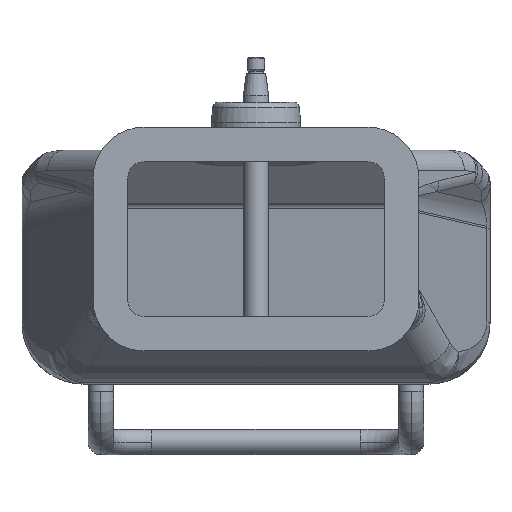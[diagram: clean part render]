
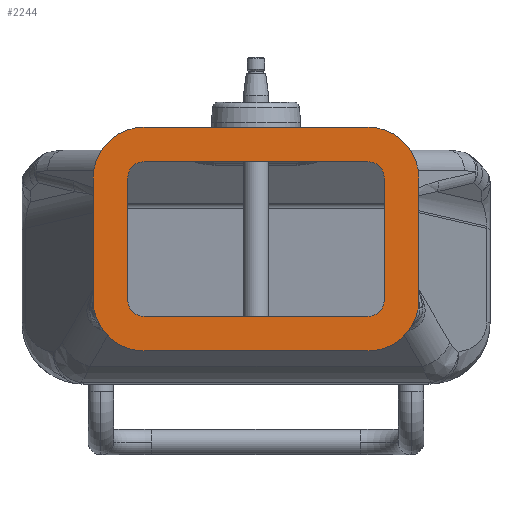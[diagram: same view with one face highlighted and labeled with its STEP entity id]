
A CAD part, front view. The second image highlights one B-rep face of the part: STEP entity #2244.
In plain terms, the highlighted planar face has unit normal (0, -1, 0).
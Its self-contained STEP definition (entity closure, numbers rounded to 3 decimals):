
#8 = DIRECTION ( 'NONE',  ( -1., 0., 0. ) ) ;
#14 = EDGE_CURVE ( 'NONE', #4672, #5034, #12563, .T. ) ;
#139 = CIRCLE ( 'NONE', #2749, 50. ) ;
#142 = ORIENTED_EDGE ( 'NONE', *, *, #13096, .F. ) ;
#243 = VERTEX_POINT ( 'NONE', #11363 ) ;
#385 = AXIS2_PLACEMENT_3D ( 'NONE', #1508, #1488, #1463 ) ;
#1028 = DIRECTION ( 'NONE',  ( 0., 0., -1. ) ) ;
#1097 = LINE ( 'NONE', #11670, #10498 ) ;
#1175 = LINE ( 'NONE', #8536, #10584 ) ;
#1383 = AXIS2_PLACEMENT_3D ( 'NONE', #11281, #3946, #12489 ) ;
#1394 = CARTESIAN_POINT ( 'NONE',  ( 160., -630., -147.5 ) ) ;
#1463 = DIRECTION ( 'NONE',  ( 0., 0., -1. ) ) ;
#1488 = DIRECTION ( 'NONE',  ( 0., -1., 0. ) ) ;
#1508 = CARTESIAN_POINT ( 'NONE',  ( -110., -630., -147.5 ) ) ;
#1813 = CARTESIAN_POINT ( 'NONE',  ( -110., -630., -147.5 ) ) ;
#1857 = CARTESIAN_POINT ( 'NONE',  ( -110., -630., 22.5 ) ) ;
#1936 = CARTESIAN_POINT ( 'NONE',  ( -110., -630., -27.5 ) ) ;
#1948 = DIRECTION ( 'NONE',  ( -1., 0., 0. ) ) ;
#1977 = CARTESIAN_POINT ( 'NONE',  ( -110., -630., -11.5 ) ) ;
#2244 = ADVANCED_FACE ( 'NONE', ( #3919, #10807 ), #14864, .T. ) ;
#2275 = CARTESIAN_POINT ( 'NONE',  ( -126., -630., -27.5 ) ) ;
#2638 = DIRECTION ( 'NONE',  ( 0., 0., 1. ) ) ;
#2733 = VECTOR ( 'NONE', #12364, 1000. ) ;
#2749 = AXIS2_PLACEMENT_3D ( 'NONE', #12536, #12516, #12484 ) ;
#3046 = DIRECTION ( 'NONE',  ( 0., 0., -1. ) ) ;
#3087 = CIRCLE ( 'NONE', #11800, 16. ) ;
#3156 = DIRECTION ( 'NONE',  ( 0., 0., -1. ) ) ;
#3654 = EDGE_CURVE ( 'NONE', #11541, #11926, #8846, .T. ) ;
#3676 = ORIENTED_EDGE ( 'NONE', *, *, #8111, .F. ) ;
#3794 = ORIENTED_EDGE ( 'NONE', *, *, #14, .T. ) ;
#3815 = CARTESIAN_POINT ( 'NONE',  ( 126., -630., -27.5 ) ) ;
#3859 = CARTESIAN_POINT ( 'NONE',  ( 126., -630., -27.5 ) ) ;
#3894 = VERTEX_POINT ( 'NONE', #5079 ) ;
#3919 = FACE_BOUND ( 'NONE', #15265, .T. ) ;
#3946 = DIRECTION ( 'NONE',  ( 0., -1., 0. ) ) ;
#4520 = EDGE_CURVE ( 'NONE', #11118, #11330, #3087, .T. ) ;
#4659 = DIRECTION ( 'NONE',  ( 1., 0., 0. ) ) ;
#4672 = VERTEX_POINT ( 'NONE', #4857 ) ;
#4681 = VERTEX_POINT ( 'NONE', #13712 ) ;
#4764 = CARTESIAN_POINT ( 'NONE',  ( -110., -630., -11.5 ) ) ;
#4857 = CARTESIAN_POINT ( 'NONE',  ( -160., -630., -147.5 ) ) ;
#4860 = CARTESIAN_POINT ( 'NONE',  ( -160., -630., -27.5 ) ) ;
#4863 = VERTEX_POINT ( 'NONE', #9408 ) ;
#4892 = CARTESIAN_POINT ( 'NONE',  ( -110., -630., -163.5 ) ) ;
#5034 = VERTEX_POINT ( 'NONE', #12589 ) ;
#5050 = VERTEX_POINT ( 'NONE', #11219 ) ;
#5079 = CARTESIAN_POINT ( 'NONE',  ( 110., -630., -197.5 ) ) ;
#5088 = ORIENTED_EDGE ( 'NONE', *, *, #3654, .F. ) ;
#5095 = VECTOR ( 'NONE', #1948, 1000. ) ;
#5471 = LINE ( 'NONE', #1977, #5095 ) ;
#5575 = DIRECTION ( 'NONE',  ( 0., 0., -1. ) ) ;
#5624 = VERTEX_POINT ( 'NONE', #1857 ) ;
#5683 = DIRECTION ( 'NONE',  ( 0., -1., 0. ) ) ;
#5794 = CARTESIAN_POINT ( 'NONE',  ( -110., -630., -27.5 ) ) ;
#5797 = CIRCLE ( 'NONE', #14454, 16. ) ;
#6013 = ORIENTED_EDGE ( 'NONE', *, *, #13912, .F. ) ;
#6186 = AXIS2_PLACEMENT_3D ( 'NONE', #1936, #10507, #3156 ) ;
#6614 = EDGE_CURVE ( 'NONE', #243, #4863, #139, .T. ) ;
#6672 = CIRCLE ( 'NONE', #1383, 50. ) ;
#6698 = EDGE_CURVE ( 'NONE', #9441, #11118, #1097, .T. ) ;
#6724 = CARTESIAN_POINT ( 'NONE',  ( -126., -630., -27.5 ) ) ;
#6738 = AXIS2_PLACEMENT_3D ( 'NONE', #8408, #8150, #7558 ) ;
#7006 = DIRECTION ( 'NONE',  ( 0., 0., -1. ) ) ;
#7125 = ORIENTED_EDGE ( 'NONE', *, *, #6698, .F. ) ;
#7293 = EDGE_CURVE ( 'NONE', #11926, #11940, #5471, .T. ) ;
#7558 = DIRECTION ( 'NONE',  ( 0., 0., -1. ) ) ;
#7673 = CARTESIAN_POINT ( 'NONE',  ( 110., -630., -163.5 ) ) ;
#8111 = EDGE_CURVE ( 'NONE', #11330, #11541, #9249, .T. ) ;
#8142 = ORIENTED_EDGE ( 'NONE', *, *, #6614, .T. ) ;
#8149 = ORIENTED_EDGE ( 'NONE', *, *, #11891, .T. ) ;
#8150 = DIRECTION ( 'NONE',  ( 0., -1., 0. ) ) ;
#8152 = AXIS2_PLACEMENT_3D ( 'NONE', #1813, #10383, #3046 ) ;
#8233 = LINE ( 'NONE', #14425, #14381 ) ;
#8265 = VECTOR ( 'NONE', #10955, 1000. ) ;
#8313 = LINE ( 'NONE', #1394, #13685 ) ;
#8333 = ORIENTED_EDGE ( 'NONE', *, *, #8969, .T. ) ;
#8408 = CARTESIAN_POINT ( 'NONE',  ( 110., -630., -27.5 ) ) ;
#8417 = EDGE_CURVE ( 'NONE', #5050, #4672, #8637, .T. ) ;
#8536 = CARTESIAN_POINT ( 'NONE',  ( 110., -630., 22.5 ) ) ;
#8637 = LINE ( 'NONE', #4860, #8265 ) ;
#8846 = CIRCLE ( 'NONE', #6738, 16. ) ;
#8905 = ORIENTED_EDGE ( 'NONE', *, *, #15829, .F. ) ;
#8931 = CARTESIAN_POINT ( 'NONE',  ( 110., -630., -147.5 ) ) ;
#8969 = EDGE_CURVE ( 'NONE', #4863, #5624, #1175, .T. ) ;
#9123 = ORIENTED_EDGE ( 'NONE', *, *, #11184, .T. ) ;
#9213 = VERTEX_POINT ( 'NONE', #6724 ) ;
#9249 = LINE ( 'NONE', #3815, #2733 ) ;
#9381 = VECTOR ( 'NONE', #1028, 1000. ) ;
#9408 = CARTESIAN_POINT ( 'NONE',  ( 110., -630., 22.5 ) ) ;
#9441 = VERTEX_POINT ( 'NONE', #4892 ) ;
#9527 = ORIENTED_EDGE ( 'NONE', *, *, #4520, .F. ) ;
#9622 = CARTESIAN_POINT ( 'NONE',  ( 110., -630., -11.5 ) ) ;
#10336 = CIRCLE ( 'NONE', #6186, 50. ) ;
#10383 = DIRECTION ( 'NONE',  ( 0., -1., 0. ) ) ;
#10386 = VERTEX_POINT ( 'NONE', #13840 ) ;
#10498 = VECTOR ( 'NONE', #11686, 1000. ) ;
#10507 = DIRECTION ( 'NONE',  ( 0., -1., 0. ) ) ;
#10584 = VECTOR ( 'NONE', #8, 1000. ) ;
#10807 = FACE_OUTER_BOUND ( 'NONE', #15083, .T. ) ;
#10955 = DIRECTION ( 'NONE',  ( 0., 0., -1. ) ) ;
#11118 = VERTEX_POINT ( 'NONE', #7673 ) ;
#11184 = EDGE_CURVE ( 'NONE', #5624, #5050, #10336, .T. ) ;
#11219 = CARTESIAN_POINT ( 'NONE',  ( -160., -630., -27.5 ) ) ;
#11281 = CARTESIAN_POINT ( 'NONE',  ( 110., -630., -147.5 ) ) ;
#11330 = VERTEX_POINT ( 'NONE', #13112 ) ;
#11363 = CARTESIAN_POINT ( 'NONE',  ( 160., -630., -27.5 ) ) ;
#11541 = VERTEX_POINT ( 'NONE', #3859 ) ;
#11605 = ORIENTED_EDGE ( 'NONE', *, *, #14388, .T. ) ;
#11670 = CARTESIAN_POINT ( 'NONE',  ( -110., -630., -163.5 ) ) ;
#11686 = DIRECTION ( 'NONE',  ( 1., 0., 0. ) ) ;
#11800 = AXIS2_PLACEMENT_3D ( 'NONE', #8931, #5683, #5575 ) ;
#11891 = EDGE_CURVE ( 'NONE', #5034, #3894, #8233, .T. ) ;
#11926 = VERTEX_POINT ( 'NONE', #9622 ) ;
#11940 = VERTEX_POINT ( 'NONE', #4764 ) ;
#12092 = EDGE_CURVE ( 'NONE', #3894, #4681, #6672, .T. ) ;
#12364 = DIRECTION ( 'NONE',  ( 0., 0., 1. ) ) ;
#12484 = DIRECTION ( 'NONE',  ( 0., 0., -1. ) ) ;
#12489 = DIRECTION ( 'NONE',  ( 0., 0., -1. ) ) ;
#12516 = DIRECTION ( 'NONE',  ( 0., -1., 0. ) ) ;
#12536 = CARTESIAN_POINT ( 'NONE',  ( 110., -630., -27.5 ) ) ;
#12539 = AXIS2_PLACEMENT_3D ( 'NONE', #14711, #14544, #14473 ) ;
#12563 = CIRCLE ( 'NONE', #385, 50. ) ;
#12589 = CARTESIAN_POINT ( 'NONE',  ( -110., -630., -197.5 ) ) ;
#13072 = ORIENTED_EDGE ( 'NONE', *, *, #8417, .T. ) ;
#13096 = EDGE_CURVE ( 'NONE', #9213, #10386, #15876, .T. ) ;
#13112 = CARTESIAN_POINT ( 'NONE',  ( 126., -630., -147.5 ) ) ;
#13243 = ORIENTED_EDGE ( 'NONE', *, *, #12092, .T. ) ;
#13561 = CIRCLE ( 'NONE', #8152, 16. ) ;
#13685 = VECTOR ( 'NONE', #2638, 1000. ) ;
#13712 = CARTESIAN_POINT ( 'NONE',  ( 160., -630., -147.5 ) ) ;
#13840 = CARTESIAN_POINT ( 'NONE',  ( -126., -630., -147.5 ) ) ;
#13912 = EDGE_CURVE ( 'NONE', #10386, #9441, #13561, .T. ) ;
#14370 = DIRECTION ( 'NONE',  ( 0., -1., 0. ) ) ;
#14381 = VECTOR ( 'NONE', #4659, 1000. ) ;
#14388 = EDGE_CURVE ( 'NONE', #4681, #243, #8313, .T. ) ;
#14425 = CARTESIAN_POINT ( 'NONE',  ( -110., -630., -197.5 ) ) ;
#14454 = AXIS2_PLACEMENT_3D ( 'NONE', #5794, #14370, #7006 ) ;
#14473 = DIRECTION ( 'NONE',  ( 0., 0., -1. ) ) ;
#14544 = DIRECTION ( 'NONE',  ( 0., -1., 0. ) ) ;
#14575 = ORIENTED_EDGE ( 'NONE', *, *, #7293, .F. ) ;
#14711 = CARTESIAN_POINT ( 'NONE',  ( -110., -630., -27.5 ) ) ;
#14864 = PLANE ( 'NONE',  #12539 ) ;
#15083 = EDGE_LOOP ( 'NONE', ( #8142, #8333, #9123, #13072, #3794, #8149, #13243, #11605 ) ) ;
#15265 = EDGE_LOOP ( 'NONE', ( #8905, #14575, #5088, #3676, #9527, #7125, #6013, #142 ) ) ;
#15829 = EDGE_CURVE ( 'NONE', #11940, #9213, #5797, .T. ) ;
#15876 = LINE ( 'NONE', #2275, #9381 ) ;
